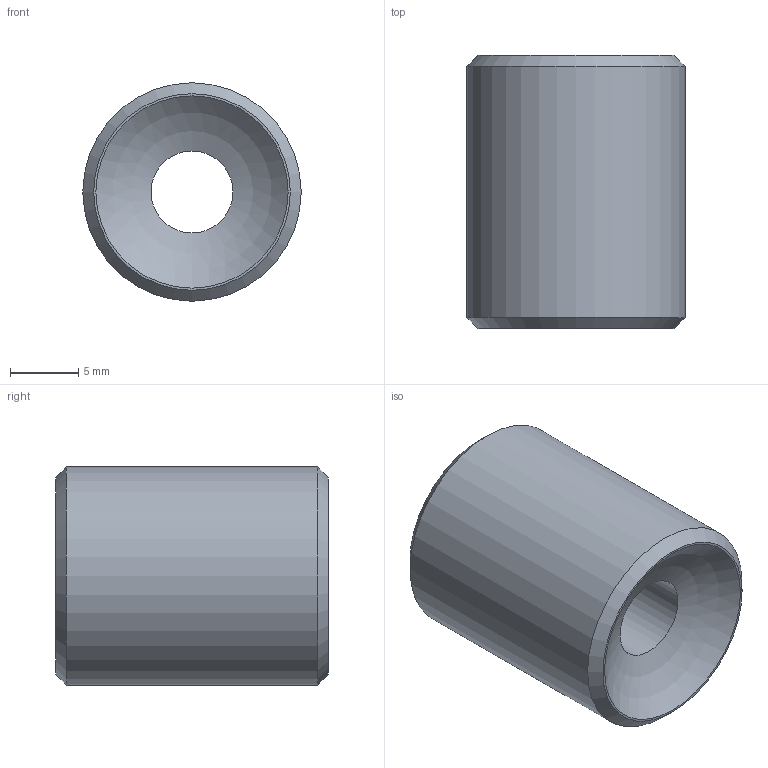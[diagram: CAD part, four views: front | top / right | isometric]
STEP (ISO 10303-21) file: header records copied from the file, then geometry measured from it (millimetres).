
FILE_DESCRIPTION(('CAx-IF Rec.Pracs.---Model Styling and Organization---1.5---2016-08-15','CAx-IF Rec.Pracs.---Geometric and Assembly Validation Properties---4.4---2016-08-17','CAx-IF Rec.Pracs.---User Defined Attributes---1.5---2016-08-15','CAx-IF Rec.Pracs.---External References---2.1---2005-01-19'),'2;1');
FILE_NAME('EZ-0249-M16x1-R10-20-Andruckschraube-Bestell-Nr.-0016835.stp','2023-03-13T15:21:53',('Unspecified'),('Unspecified'),'CAD Exchanger 3.17.0 (cadexchanger.com)','Unspecified','');
FILE_SCHEMA(('AP242_MANAGED_MODEL_BASED_3D_ENGINEERING_MIM_LF { 1 0 10303 442 1 1 4 }'));
Length unit declared in the file: millimetre
Products named in the file (1): EZ-0249-M16x1-R10-20-Andruckschraube-Bestell-Nr.-0016835
Bounding box: 16 x 20 x 16 mm (x, y, z)
Volume: 3098.6 mm3; surface area: 1712.1 mm2
Topology: 1 solids, 1 shells, 14 faces, 32 edges, 21 vertices
Faces by surface type: plane 9, cylinder 2, cone 2, sphere 1
Full cylindrical faces by diameter (mm): 6 x1, 16 x1
Entity records: 577 total; most frequent: CARTESIAN_POINT 72, DIRECTION 66, ORIENTED_EDGE 64, EDGE_CURVE 32, PROPERTY_DEFINITION 32, REPRESENTATION 32, PROPERTY_DEFINITION_REPRESENTATION 32, GENERAL_PROPERTY 29
